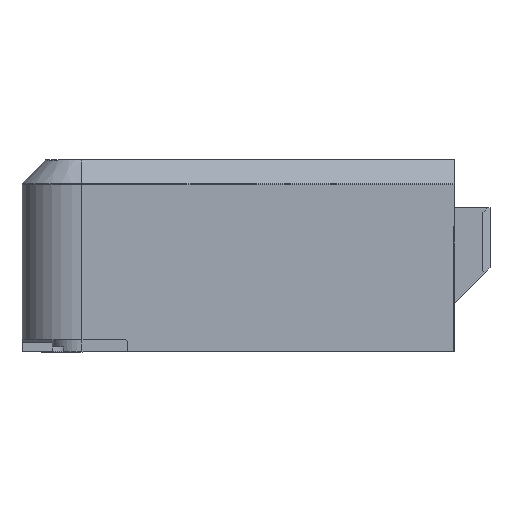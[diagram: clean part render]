
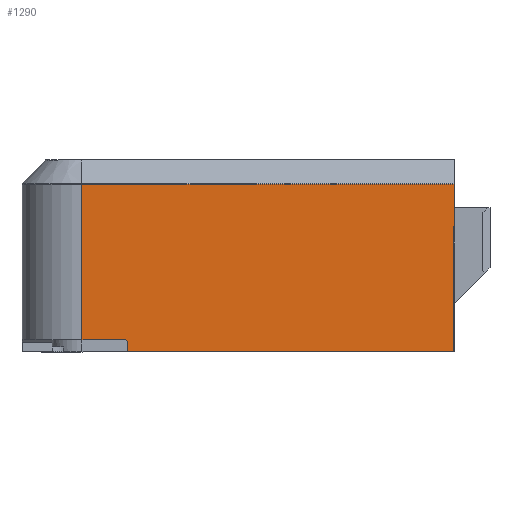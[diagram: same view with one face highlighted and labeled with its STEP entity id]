
A CAD part, top view. The second image highlights one B-rep face of the part: STEP entity #1290.
In plain terms, the highlighted planar face has unit normal (0, 0, 1).
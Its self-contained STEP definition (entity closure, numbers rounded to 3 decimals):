
#55 = ORIENTED_EDGE ( 'NONE', *, *, #1672, .T. ) ;
#98 = DIRECTION ( 'NONE',  ( 0.707, -0.707, 0. ) ) ;
#121 = DIRECTION ( 'NONE',  ( 0., 1., 0. ) ) ;
#162 = CARTESIAN_POINT ( 'NONE',  ( -156.664, 5., 40.923 ) ) ;
#206 = LINE ( 'NONE', #2680, #493 ) ;
#310 = ORIENTED_EDGE ( 'NONE', *, *, #1711, .T. ) ;
#367 = VECTOR ( 'NONE', #98, 1000. ) ;
#421 = CARTESIAN_POINT ( 'NONE',  ( -156.664, 80., 40.923 ) ) ;
#482 = DIRECTION ( 'NONE',  ( -1., 0., 0. ) ) ;
#493 = VECTOR ( 'NONE', #2179, 1000. ) ;
#522 = VERTEX_POINT ( 'NONE', #2547 ) ;
#765 = EDGE_CURVE ( 'NONE', #1823, #2696, #206, .T. ) ;
#799 = EDGE_CURVE ( 'NONE', #522, #1321, #3009, .T. ) ;
#979 = CARTESIAN_POINT ( 'NONE',  ( -137.664, 4., 40.923 ) ) ;
#981 = EDGE_CURVE ( 'NONE', #2066, #1823, #2384, .T. ) ;
#1033 = LINE ( 'NONE', #2781, #2231 ) ;
#1116 = VECTOR ( 'NONE', #1409, 1000. ) ;
#1190 = VECTOR ( 'NONE', #121, 1000. ) ;
#1260 = ORIENTED_EDGE ( 'NONE', *, *, #799, .T. ) ;
#1276 = LINE ( 'NONE', #421, #1352 ) ;
#1290 = ADVANCED_FACE ( 'NONE', ( #1966 ), #1651, .F. ) ;
#1321 = VERTEX_POINT ( 'NONE', #3036 ) ;
#1352 = VECTOR ( 'NONE', #2721, 1000. ) ;
#1409 = DIRECTION ( 'NONE',  ( -1., 0., 0. ) ) ;
#1651 = PLANE ( 'NONE',  #3378 ) ;
#1672 = EDGE_CURVE ( 'NONE', #1321, #3076, #3023, .T. ) ;
#1682 = CARTESIAN_POINT ( 'NONE',  ( -1.664, 80., 40.923 ) ) ;
#1711 = EDGE_CURVE ( 'NONE', #3076, #2380, #1276, .T. ) ;
#1823 = VERTEX_POINT ( 'NONE', #979 ) ;
#1844 = CARTESIAN_POINT ( 'NONE',  ( -156.664, 69.793, 40.923 ) ) ;
#1898 = ORIENTED_EDGE ( 'NONE', *, *, #765, .T. ) ;
#1966 = FACE_OUTER_BOUND ( 'NONE', #2297, .T. ) ;
#2044 = VECTOR ( 'NONE', #2245, 1000. ) ;
#2066 = VERTEX_POINT ( 'NONE', #2610 ) ;
#2173 = ORIENTED_EDGE ( 'NONE', *, *, #2987, .F. ) ;
#2179 = DIRECTION ( 'NONE',  ( 0., -1., 0. ) ) ;
#2231 = VECTOR ( 'NONE', #3054, 1000. ) ;
#2245 = DIRECTION ( 'NONE',  ( -1., 0., 0. ) ) ;
#2297 = EDGE_LOOP ( 'NONE', ( #2173, #2935, #1898, #3130, #1260, #55, #310 ) ) ;
#2355 = CARTESIAN_POINT ( 'NONE',  ( -137.664, 0., 40.923 ) ) ;
#2380 = VERTEX_POINT ( 'NONE', #162 ) ;
#2384 = LINE ( 'NONE', #3214, #367 ) ;
#2547 = CARTESIAN_POINT ( 'NONE',  ( -1.664, 0., 40.923 ) ) ;
#2554 = EDGE_CURVE ( 'NONE', #2696, #522, #1033, .T. ) ;
#2610 = CARTESIAN_POINT ( 'NONE',  ( -138.664, 5., 40.923 ) ) ;
#2680 = CARTESIAN_POINT ( 'NONE',  ( -137.664, 80., 40.923 ) ) ;
#2696 = VERTEX_POINT ( 'NONE', #2355 ) ;
#2721 = DIRECTION ( 'NONE',  ( 0., -1., 0. ) ) ;
#2781 = CARTESIAN_POINT ( 'NONE',  ( 173.336, 0., 40.923 ) ) ;
#2882 = LINE ( 'NONE', #3029, #2044 ) ;
#2935 = ORIENTED_EDGE ( 'NONE', *, *, #981, .T. ) ;
#2987 = EDGE_CURVE ( 'NONE', #2066, #2380, #2882, .T. ) ;
#2996 = CARTESIAN_POINT ( 'NONE',  ( -156.664, 69.793, 40.923 ) ) ;
#3009 = LINE ( 'NONE', #1682, #1190 ) ;
#3023 = LINE ( 'NONE', #2996, #1116 ) ;
#3029 = CARTESIAN_POINT ( 'NONE',  ( 173.336, 5., 40.923 ) ) ;
#3036 = CARTESIAN_POINT ( 'NONE',  ( -1.664, 69.793, 40.923 ) ) ;
#3054 = DIRECTION ( 'NONE',  ( 1., 0., 0. ) ) ;
#3076 = VERTEX_POINT ( 'NONE', #1844 ) ;
#3082 = CARTESIAN_POINT ( 'NONE',  ( 173.336, 80., 40.923 ) ) ;
#3130 = ORIENTED_EDGE ( 'NONE', *, *, #2554, .T. ) ;
#3214 = CARTESIAN_POINT ( 'NONE',  ( -20.164, -113.5, 40.923 ) ) ;
#3321 = DIRECTION ( 'NONE',  ( 0., 0., -1. ) ) ;
#3378 = AXIS2_PLACEMENT_3D ( 'NONE', #3082, #3321, #482 ) ;
